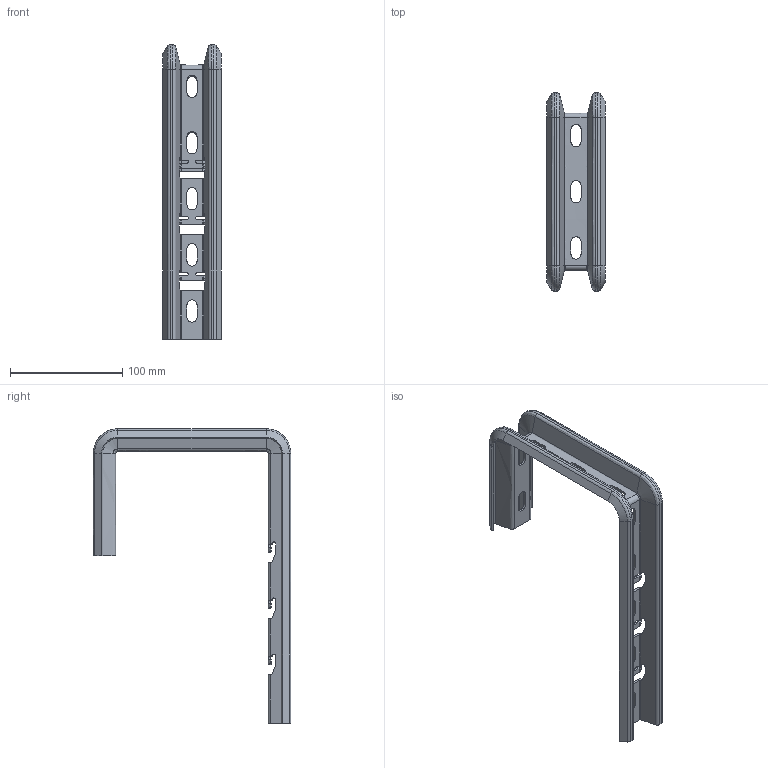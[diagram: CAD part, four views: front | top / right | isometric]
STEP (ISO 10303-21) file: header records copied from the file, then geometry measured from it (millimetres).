
FILE_DESCRIPTION (( 'STEP AP214' ), '1' );
FILE_NAME ('C-SHOT 150.STEP', '2023-06-28T09:48:07', ( '' ), ( '' ), 'SwSTEP 2.0', 'SolidWorks 2022', '' );
FILE_SCHEMA (( 'AUTOMOTIVE_DESIGN' ));
Length unit declared in the file: millimetre
Products named in the file (1): C-SHOT 150
Bounding box: 52 x 176 x 262 mm (x, y, z)
Volume: 77000.3 mm3; surface area: 82129.6 mm2
Topology: 1 solids, 1 shells, 326 faces, 792 edges, 462 vertices
Faces by surface type: plane 138, bspline 103, cylinder 81, cone 4
Entity records: 48860 total; most frequent: CARTESIAN_POINT 41806, ORIENTED_EDGE 1584, DIRECTION 1206, EDGE_CURVE 792, LINE 466, VECTOR 466, VERTEX_POINT 462, AXIS2_PLACEMENT_3D 370
